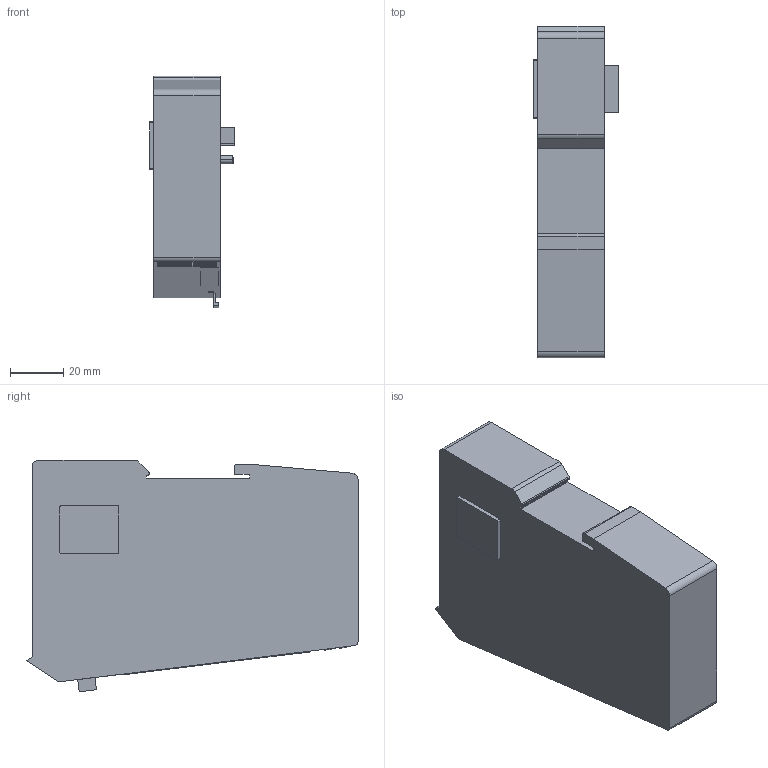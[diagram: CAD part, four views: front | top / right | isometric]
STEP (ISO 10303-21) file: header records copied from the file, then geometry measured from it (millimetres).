
FILE_DESCRIPTION(('CATIA V5 STEP Exchange','CAx-IF Rec.Pracs.--- Model Styling and Organization---1.4--- 2014-01-23'),'2;1');
FILE_NAME('Z:\DE\Automation\Data\Exchange\Dreiack\AE\Andreas\Lenze Eplan\10259692_694 330 00 XX Safety PLC_20022018.stp','2018-02-20T07:51:06+00:00',('none'),('none'),'CATIA Version 5-6 Release 2016 SP3 HF42','CATIA V5 STEP AP214','none');
FILE_SCHEMA(('AUTOMOTIVE_DESIGN { 1 0 10303 214 1 1 1 1 }'));
Length unit declared in the file: millimetre
Products named in the file (1): 10259692________--___0
Bounding box: 31.8 x 124.28 x 86.71 mm (x, y, z)
Volume: 221043.7 mm3; surface area: 32622.4 mm2
Topology: 2 solids, 4 shells, 300 faces, 709 edges, 456 vertices
Faces by surface type: plane 259, cylinder 37, cone 4
Entity records: 7988 total; most frequent: ORIENTED_EDGE 1418, CARTESIAN_POINT 1395, DIRECTION 1041, EDGE_CURVE 709, VECTOR 589, LINE 589, VERTEX_POINT 456, EDGE_LOOP 339
